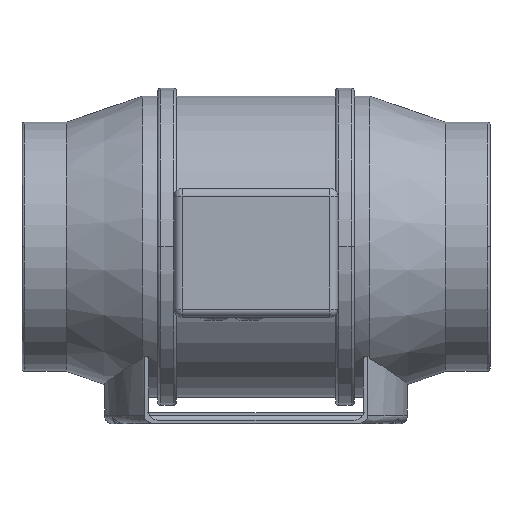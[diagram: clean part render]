
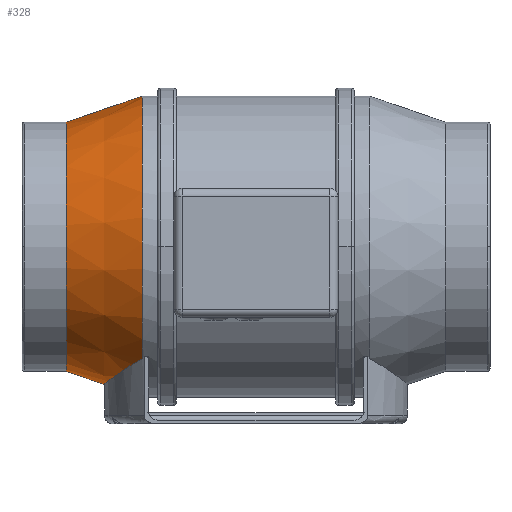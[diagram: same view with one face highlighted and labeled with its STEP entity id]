
A CAD part, top view. The second image highlights one B-rep face of the part: STEP entity #328.
In plain terms, the highlighted conical face has half-angle 19.044 degrees and reference radius 86.75 mm.
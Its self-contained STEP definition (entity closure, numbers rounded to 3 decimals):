
#328=ADVANCED_FACE('',(#876),#877,.T.);
#876=FACE_OUTER_BOUND('',#1654,.T.);
#877=CONICAL_SURFACE('',#1655,86.75,0.332);
#1654=EDGE_LOOP('',(#2587,#2588,#2589,#2590,#2591,#2592));
#1655=AXIS2_PLACEMENT_3D('',#2593,#2594,#2595);
#2587=ORIENTED_EDGE('',*,*,#4908,.F.);
#2588=ORIENTED_EDGE('',*,*,#4787,.T.);
#2589=ORIENTED_EDGE('',*,*,#4909,.F.);
#2590=ORIENTED_EDGE('',*,*,#4910,.T.);
#2591=ORIENTED_EDGE('',*,*,#4911,.T.);
#2592=ORIENTED_EDGE('',*,*,#4870,.F.);
#2593=CARTESIAN_POINT('',(-95.6,0.0,0.0));
#2594=DIRECTION('',(1.0,-0.0,-0.0));
#2595=DIRECTION('',(0.0,1.0,0.0));
#4787=EDGE_CURVE('',#5760,#5766,#5768,.T.);
#4870=EDGE_CURVE('',#5913,#5916,#5917,.T.);
#4908=EDGE_CURVE('',#5760,#5913,#5978,.T.);
#4909=EDGE_CURVE('',#5979,#5766,#5980,.T.);
#4910=EDGE_CURVE('',#5979,#5981,#5982,.T.);
#4911=EDGE_CURVE('',#5981,#5916,#5983,.T.);
#5760=VERTEX_POINT('',#7363);
#5766=VERTEX_POINT('',#7370);
#5768=CIRCLE('',#7373,78.5);
#5913=VERTEX_POINT('',#8131);
#5916=VERTEX_POINT('',#8135);
#5917=CIRCLE('',#8136,95.);
#5978=LINE('',#8300,#8301);
#5979=VERTEX_POINT('',#8302);
#5980=LINE('',#8303,#8304);
#5981=VERTEX_POINT('',#8305);
#5982=B_SPLINE_CURVE_WITH_KNOTS('',3,(#8306,#8307,#8308,#8309,#8310,#8311,#8312,#8313,#8314,#8315,#8316,#8317,#8318,#8319,#8320,#8321,#8322,#8323,#8324,#8325,#8326,#8327,#8328,#8329,#8330,#8331),.UNSPECIFIED.,.F.,.F.,(4,2,2,2,2,2,2,2,2,2,2,2,4),(3.656,5.484,7.312,9.002,10.693,12.383,14.074,15.764,17.454,19.145,20.835,22.663,24.491),.UNSPECIFIED.);
#5983=B_SPLINE_CURVE_WITH_KNOTS('',3,(#8332,#8333,#8334,#8335,#8336,#8337,#8338,#8339,#8340,#8341,#8342,#8343,#8344,#8345,#8346,#8347,#8348,#8349,#8350,#8351,#8352,#8353,#8354,#8355,#8356,#8357,#8358,#8359,#8360,#8361,#8362,#8363,#8364,#8365),.UNSPECIFIED.,.F.,.F.,(4,2,2,2,2,2,2,2,2,2,2,2,2,2,2,2,4),(0.0,10.,20.,30.,40.,50.,60.,70.,80.,90.,100.,110.,120.,130.,140.,150.,160.),.UNSPECIFIED.);
#7363=CARTESIAN_POINT('',(-119.5,78.5,0.0));
#7370=CARTESIAN_POINT('',(-119.5,-78.5,0.));
#7373=AXIS2_PLACEMENT_3D('',#13345,#13346,#13347);
#8131=CARTESIAN_POINT('',(-71.7,95.,0.));
#8135=CARTESIAN_POINT('',(-71.7,-70.526,63.648));
#8136=AXIS2_PLACEMENT_3D('',#13464,#13465,#13466);
#8300=CARTESIAN_POINT('',(-95.6,86.75,0.));
#8301=VECTOR('',#13528,1.0);
#8302=CARTESIAN_POINT('',(-90.875,-88.381,0.));
#8303=CARTESIAN_POINT('',(-95.6,-86.75,0.));
#8304=VECTOR('',#13529,1.0);
#8305=CARTESIAN_POINT('',(-95.503,-86.373,8.435));
#8306=CARTESIAN_POINT('',(-95.998,-86.172,-8.73));
#8307=CARTESIAN_POINT('',(-95.461,-86.388,-8.43));
#8308=CARTESIAN_POINT('',(-94.95,-86.599,-8.079));
#8309=CARTESIAN_POINT('',(-94.011,-86.994,-7.298));
#8310=CARTESIAN_POINT('',(-93.583,-87.177,-6.868));
#8311=CARTESIAN_POINT('',(-92.858,-87.492,-6.002));
#8312=CARTESIAN_POINT('',(-92.528,-87.637,-5.538));
#8313=CARTESIAN_POINT('',(-91.945,-87.896,-4.538));
#8314=CARTESIAN_POINT('',(-91.691,-88.01,-4.001));
#8315=CARTESIAN_POINT('',(-91.282,-88.195,-2.887));
#8316=CARTESIAN_POINT('',(-91.127,-88.266,-2.308));
#8317=CARTESIAN_POINT('',(-90.923,-88.359,-1.146));
#8318=CARTESIAN_POINT('',(-90.875,-88.381,-0.563));
#8319=CARTESIAN_POINT('',(-90.875,-88.381,0.563));
#8320=CARTESIAN_POINT('',(-90.923,-88.359,1.146));
#8321=CARTESIAN_POINT('',(-91.127,-88.266,2.308));
#8322=CARTESIAN_POINT('',(-91.282,-88.195,2.887));
#8323=CARTESIAN_POINT('',(-91.691,-88.01,4.001));
#8324=CARTESIAN_POINT('',(-91.945,-87.896,4.538));
#8325=CARTESIAN_POINT('',(-92.528,-87.637,5.538));
#8326=CARTESIAN_POINT('',(-92.858,-87.492,6.002));
#8327=CARTESIAN_POINT('',(-93.583,-87.177,6.868));
#8328=CARTESIAN_POINT('',(-94.011,-86.994,7.298));
#8329=CARTESIAN_POINT('',(-94.95,-86.599,8.079));
#8330=CARTESIAN_POINT('',(-95.461,-86.388,8.43));
#8331=CARTESIAN_POINT('',(-95.998,-86.172,8.73));
#8332=CARTESIAN_POINT('',(-64.573,-66.904,-70.868));
#8333=CARTESIAN_POINT('',(-66.905,-67.982,-68.744));
#8334=CARTESIAN_POINT('',(-69.158,-69.134,-66.48));
#8335=CARTESIAN_POINT('',(-73.465,-71.49,-61.688));
#8336=CARTESIAN_POINT('',(-75.517,-72.694,-59.16));
#8337=CARTESIAN_POINT('',(-79.381,-75.066,-53.864));
#8338=CARTESIAN_POINT('',(-81.193,-76.233,-51.096));
#8339=CARTESIAN_POINT('',(-84.537,-78.456,-45.35));
#8340=CARTESIAN_POINT('',(-86.069,-79.51,-42.372));
#8341=CARTESIAN_POINT('',(-88.823,-81.444,-36.247));
#8342=CARTESIAN_POINT('',(-90.045,-82.325,-33.095));
#8343=CARTESIAN_POINT('',(-92.154,-83.864,-26.665));
#8344=CARTESIAN_POINT('',(-93.041,-84.522,-23.386));
#8345=CARTESIAN_POINT('',(-94.46,-85.583,-16.757));
#8346=CARTESIAN_POINT('',(-94.993,-85.986,-13.406));
#8347=CARTESIAN_POINT('',(-95.701,-86.522,-6.694));
#8348=CARTESIAN_POINT('',(-95.875,-86.655,-3.333));
#8349=CARTESIAN_POINT('',(-95.875,-86.655,3.333));
#8350=CARTESIAN_POINT('',(-95.701,-86.522,6.694));
#8351=CARTESIAN_POINT('',(-94.993,-85.986,13.406));
#8352=CARTESIAN_POINT('',(-94.46,-85.583,16.757));
#8353=CARTESIAN_POINT('',(-93.041,-84.522,23.386));
#8354=CARTESIAN_POINT('',(-92.154,-83.864,26.665));
#8355=CARTESIAN_POINT('',(-90.045,-82.325,33.095));
#8356=CARTESIAN_POINT('',(-88.823,-81.444,36.247));
#8357=CARTESIAN_POINT('',(-86.069,-79.51,42.372));
#8358=CARTESIAN_POINT('',(-84.537,-78.456,45.35));
#8359=CARTESIAN_POINT('',(-81.193,-76.233,51.096));
#8360=CARTESIAN_POINT('',(-79.381,-75.066,53.864));
#8361=CARTESIAN_POINT('',(-75.517,-72.694,59.16));
#8362=CARTESIAN_POINT('',(-73.465,-71.49,61.688));
#8363=CARTESIAN_POINT('',(-69.158,-69.134,66.48));
#8364=CARTESIAN_POINT('',(-66.905,-67.982,68.744));
#8365=CARTESIAN_POINT('',(-64.573,-66.904,70.868));
#13345=CARTESIAN_POINT('',(-119.5,0.0,0.0));
#13346=DIRECTION('',(1.0,0.0,0.0));
#13347=DIRECTION('',(0.0,1.0,0.0));
#13464=CARTESIAN_POINT('',(-71.7,0.0,0.0));
#13465=DIRECTION('',(1.0,0.0,0.0));
#13466=DIRECTION('',(0.0,1.0,0.0));
#13528=DIRECTION('',(0.945,0.326,0.));
#13529=DIRECTION('',(-0.945,0.326,0.));
